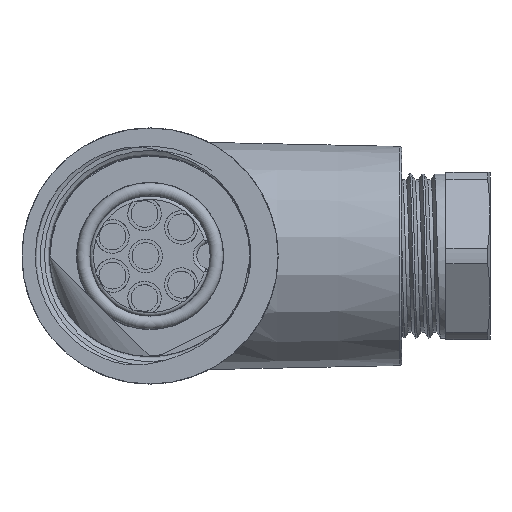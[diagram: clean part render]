
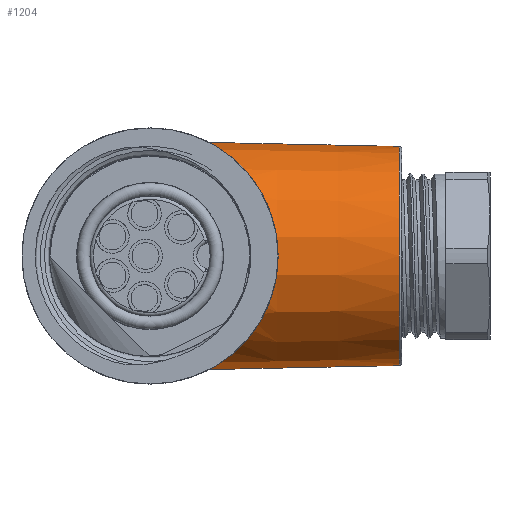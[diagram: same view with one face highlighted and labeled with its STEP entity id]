
A CAD part, left-side view. The second image highlights one B-rep face of the part: STEP entity #1204.
In plain terms, the highlighted conical face has half-angle 1.206 degrees and reference radius 13 mm.
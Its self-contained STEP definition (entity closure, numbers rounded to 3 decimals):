
#219=CONICAL_SURFACE('',#11497,13.,1.206);
#314=FACE_BOUND('',#2865,.T.);
#315=FACE_BOUND('',#2866,.T.);
#579=CIRCLE('',#11491,12.406);
#1204=ADVANCED_FACE('',(#314,#315),#219,.T.);
#2865=EDGE_LOOP('',(#6416));
#2866=EDGE_LOOP('',(#6417,#6418,#6419,#6420));
#3337=B_SPLINE_CURVE_WITH_KNOTS('',3,(#26955,#26956,#26957,#26958,#26959,
#26960,#26961,#26962,#26963,#26964),.UNSPECIFIED.,.F.,.F.,(4,2,2,2,4),(0.,
0.25,0.5,0.75,1.),.UNSPECIFIED.);
#3338=B_SPLINE_CURVE_WITH_KNOTS('',3,(#26971,#26972,#26973,#26974,#26975,
#26976,#26977),.UNSPECIFIED.,.F.,.F.,(4,3,4),(0.,0.5,1.),
 .UNSPECIFIED.);
#3339=B_SPLINE_CURVE_WITH_KNOTS('',3,(#26989,#26990,#26991,#26992,#26993,
#26994,#26995),.UNSPECIFIED.,.F.,.F.,(4,3,4),(0.,0.5,1.),
 .UNSPECIFIED.);
#3340=B_SPLINE_CURVE_WITH_KNOTS('',3,(#26997,#26998,#26999,#27000,#27001,
#27002,#27003,#27004,#27005,#27006,#27007,#27008,#27009,#27010,#27011,#27012,
#27013,#27014,#27015,#27016,#27017,#27018,#27019,#27020,#27021,#27022,#27023,
#27024,#27025,#27026,#27027,#27028,#27029,#27030,#27031,#27032,#27033,#27034,
#27035,#27036,#27037,#27038,#27039,#27040,#27041,#27042),.UNSPECIFIED.,
 .F.,.F.,(4,2,2,2,2,2,2,2,2,2,2,2,2,2,2,2,2,2,2,2,2,2,4),(0.,0.125,0.141,
0.148,0.156,0.172,0.188,0.25,0.313,0.375,0.438,0.5,0.563,0.625,
0.75,0.813,0.828,0.836,0.844,0.852,0.859,0.875,1.),
 .UNSPECIFIED.);
#6416=ORIENTED_EDGE('',*,*,#8975,.T.);
#6417=ORIENTED_EDGE('',*,*,#8973,.F.);
#6418=ORIENTED_EDGE('',*,*,#8982,.F.);
#6419=ORIENTED_EDGE('',*,*,#8983,.F.);
#6420=ORIENTED_EDGE('',*,*,#8976,.F.);
#7425=VERTEX_POINT('',#26954);
#7426=VERTEX_POINT('',#26965);
#7427=VERTEX_POINT('',#26969);
#7428=VERTEX_POINT('',#26978);
#7431=VERTEX_POINT('',#26988);
#8973=EDGE_CURVE('',#7425,#7426,#3337,.T.);
#8975=EDGE_CURVE('',#7427,#7427,#579,.T.);
#8976=EDGE_CURVE('',#7426,#7428,#3338,.T.);
#8982=EDGE_CURVE('',#7431,#7425,#3339,.T.);
#8983=EDGE_CURVE('',#7428,#7431,#3340,.T.);
#11491=AXIS2_PLACEMENT_3D('',#26968,#14012,#14013);
#11497=AXIS2_PLACEMENT_3D('',#27043,#14028,#14029);
#14012=DIRECTION('',(0.,1.,0.));
#14013=DIRECTION('',(0.,0.,1.));
#14028=DIRECTION('',(0.,1.,0.));
#14029=DIRECTION('',(0.,0.,1.));
#26954=CARTESIAN_POINT('',(13.316,-9.372,10.4));
#26955=CARTESIAN_POINT('',(13.316,-9.372,10.4));
#26956=CARTESIAN_POINT('',(14.793,-10.583,9.309));
#26957=CARTESIAN_POINT('',(16.073,-11.735,7.883));
#26958=CARTESIAN_POINT('',(17.965,-13.45,4.353));
#26959=CARTESIAN_POINT('',(18.552,-13.997,2.201));
#26960=CARTESIAN_POINT('',(18.558,-14.003,-2.167));
#26961=CARTESIAN_POINT('',(17.978,-13.462,-4.323));
#26962=CARTESIAN_POINT('',(16.075,-11.737,-7.884));
#26963=CARTESIAN_POINT('',(14.795,-10.585,-9.307));
#26964=CARTESIAN_POINT('',(13.316,-9.372,-10.4));
#26965=CARTESIAN_POINT('',(13.316,-9.372,-10.4));
#26968=CARTESIAN_POINT('',(5.85,-28.206,0.));
#26969=CARTESIAN_POINT('',(5.85,-28.206,12.406));
#26971=CARTESIAN_POINT('',(13.316,-9.372,-10.4));
#26972=CARTESIAN_POINT('',(13.326,-9.11,-10.4));
#26973=CARTESIAN_POINT('',(13.335,-8.848,-10.4));
#26974=CARTESIAN_POINT('',(13.345,-8.586,-10.4));
#26975=CARTESIAN_POINT('',(13.354,-8.324,-10.4));
#26976=CARTESIAN_POINT('',(13.364,-8.062,-10.4));
#26977=CARTESIAN_POINT('',(13.373,-7.8,-10.4));
#26978=CARTESIAN_POINT('',(13.373,-7.8,-10.4));
#26988=CARTESIAN_POINT('',(13.373,-7.8,10.4));
#26989=CARTESIAN_POINT('',(13.373,-7.8,10.4));
#26990=CARTESIAN_POINT('',(13.364,-8.062,10.4));
#26991=CARTESIAN_POINT('',(13.354,-8.324,10.4));
#26992=CARTESIAN_POINT('',(13.345,-8.586,10.4));
#26993=CARTESIAN_POINT('',(13.335,-8.848,10.4));
#26994=CARTESIAN_POINT('',(13.326,-9.11,10.4));
#26995=CARTESIAN_POINT('',(13.316,-9.372,10.4));
#26997=CARTESIAN_POINT('',(13.373,-7.8,-10.4));
#26998=CARTESIAN_POINT('',(11.539,-5.968,-11.774));
#26999=CARTESIAN_POINT('',(9.502,-3.918,-12.568));
#27000=CARTESIAN_POINT('',(7.155,-1.605,-12.903));
#27001=CARTESIAN_POINT('',(6.892,-1.347,-12.932));
#27002=CARTESIAN_POINT('',(6.489,-0.967,-12.965));
#27003=CARTESIAN_POINT('',(6.354,-0.84,-12.973));
#27004=CARTESIAN_POINT('',(6.064,-0.609,-12.986));
#27005=CARTESIAN_POINT('',(5.875,-0.505,-12.99));
#27006=CARTESIAN_POINT('',(5.372,-0.737,-12.98));
#27007=CARTESIAN_POINT('',(5.133,-1.038,-12.961));
#27008=CARTESIAN_POINT('',(4.605,-1.546,-12.91));
#27009=CARTESIAN_POINT('',(4.344,-1.803,-12.877));
#27010=CARTESIAN_POINT('',(3.048,-3.084,-12.671));
#27011=CARTESIAN_POINT('',(2.028,-4.104,-12.382));
#27012=CARTESIAN_POINT('',(0.041,-6.088,-11.537));
#27013=CARTESIAN_POINT('',(-0.91,-7.038,-10.989));
#27014=CARTESIAN_POINT('',(-2.715,-8.84,-9.599));
#27015=CARTESIAN_POINT('',(-3.578,-9.704,-8.742));
#27016=CARTESIAN_POINT('',(-5.073,-11.197,-6.723));
#27017=CARTESIAN_POINT('',(-5.721,-11.845,-5.534));
#27018=CARTESIAN_POINT('',(-6.624,-12.748,-2.904));
#27019=CARTESIAN_POINT('',(-6.879,-13.003,-1.442));
#27020=CARTESIAN_POINT('',(-6.874,-12.997,1.49));
#27021=CARTESIAN_POINT('',(-6.612,-12.736,2.958));
#27022=CARTESIAN_POINT('',(-5.69,-11.814,5.602));
#27023=CARTESIAN_POINT('',(-5.037,-11.162,6.782));
#27024=CARTESIAN_POINT('',(-2.785,-8.911,9.792));
#27025=CARTESIAN_POINT('',(-0.889,-7.015,11.153));
#27026=CARTESIAN_POINT('',(2.086,-4.046,12.401));
#27027=CARTESIAN_POINT('',(3.114,-3.017,12.688));
#27028=CARTESIAN_POINT('',(4.416,-1.733,12.887));
#27029=CARTESIAN_POINT('',(4.677,-1.475,12.919));
#27030=CARTESIAN_POINT('',(5.075,-1.094,12.954));
#27031=CARTESIAN_POINT('',(5.208,-0.968,12.964));
#27032=CARTESIAN_POINT('',(5.484,-0.725,12.98));
#27033=CARTESIAN_POINT('',(5.624,-0.579,12.987));
#27034=CARTESIAN_POINT('',(5.988,-0.522,12.99));
#27035=CARTESIAN_POINT('',(6.147,-0.67,12.983));
#27036=CARTESIAN_POINT('',(6.426,-0.907,12.969));
#27037=CARTESIAN_POINT('',(6.559,-1.033,12.96));
#27038=CARTESIAN_POINT('',(6.957,-1.411,12.926));
#27039=CARTESIAN_POINT('',(7.218,-1.667,12.895));
#27040=CARTESIAN_POINT('',(9.551,-3.968,12.551));
#27041=CARTESIAN_POINT('',(11.559,-5.988,11.759));
#27042=CARTESIAN_POINT('',(13.373,-7.8,10.4));
#27043=CARTESIAN_POINT('',(5.85,0.,0.));
